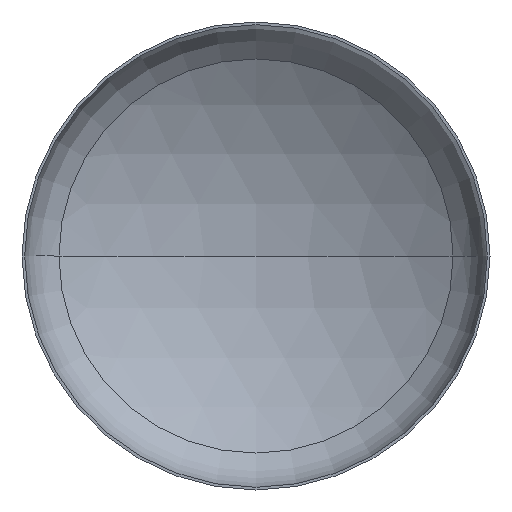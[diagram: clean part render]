
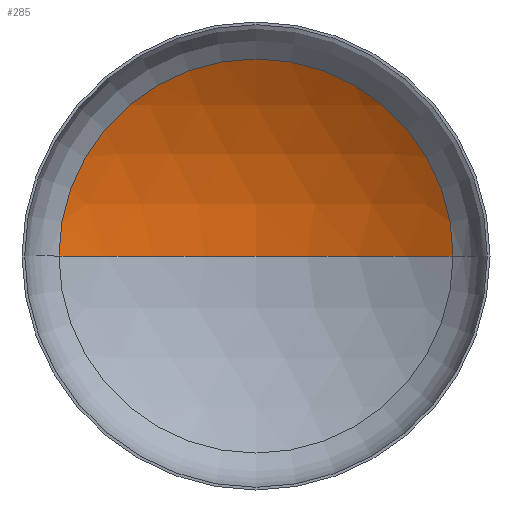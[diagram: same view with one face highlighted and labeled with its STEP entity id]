
A CAD part, front view. The second image highlights one B-rep face of the part: STEP entity #285.
In plain terms, the highlighted spherical face has radius 3600 mm.
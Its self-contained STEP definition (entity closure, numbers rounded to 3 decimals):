
#16 = AXIS2_PLACEMENT_3D ( 'NONE', #229, #83, #209 ) ;
#34 = VERTEX_POINT ( 'NONE', #203 ) ;
#39 = VERTEX_POINT ( 'NONE', #265 ) ;
#48 = AXIS2_PLACEMENT_3D ( 'NONE', #246, #402, #267 ) ;
#55 = AXIS2_PLACEMENT_3D ( 'NONE', #327, #199, #356 ) ;
#57 = CARTESIAN_POINT ( 'NONE',  ( 0., 675.943, 0. ) ) ;
#58 = AXIS2_PLACEMENT_3D ( 'NONE', #57, #289, #139 ) ;
#66 = ORIENTED_EDGE ( 'NONE', *, *, #123, .T. ) ;
#68 = VERTEX_POINT ( 'NONE', #152 ) ;
#83 = DIRECTION ( 'NONE',  ( 0., 0., -1. ) ) ;
#118 = FACE_OUTER_BOUND ( 'NONE', #150, .T. ) ;
#123 = EDGE_CURVE ( 'NONE', #34, #39, #408, .T. ) ;
#124 = EDGE_CURVE ( 'NONE', #68, #34, #288, .T. ) ;
#125 = EDGE_CURVE ( 'NONE', #68, #39, #232, .T. ) ;
#130 = ORIENTED_EDGE ( 'NONE', *, *, #124, .T. ) ;
#139 = DIRECTION ( 'NONE',  ( 1., 0., 0. ) ) ;
#145 = ORIENTED_EDGE ( 'NONE', *, *, #125, .F. ) ;
#150 = EDGE_LOOP ( 'NONE', ( #145, #130, #66 ) ) ;
#152 = CARTESIAN_POINT ( 'NONE',  ( 0., 1214.943, 0. ) ) ;
#199 = DIRECTION ( 'NONE',  ( 0., 0., -1. ) ) ;
#203 = CARTESIAN_POINT ( 'NONE',  ( 1894.802, 675.943, 0. ) ) ;
#209 = DIRECTION ( 'NONE',  ( -1., 0., 0. ) ) ;
#229 = CARTESIAN_POINT ( 'NONE',  ( 0., -2385.057, 0. ) ) ;
#232 = CIRCLE ( 'NONE', #48, 3600. ) ;
#246 = CARTESIAN_POINT ( 'NONE',  ( 0., -2385.057, 0. ) ) ;
#265 = CARTESIAN_POINT ( 'NONE',  ( -1894.802, 675.943, 0. ) ) ;
#267 = DIRECTION ( 'NONE',  ( 1., 0., 0. ) ) ;
#285 = ADVANCED_FACE ( 'NONE', ( #118 ), #323, .F. ) ;
#288 = CIRCLE ( 'NONE', #55, 3600. ) ;
#289 = DIRECTION ( 'NONE',  ( 0., -1., 0. ) ) ;
#323 = SPHERICAL_SURFACE ( 'NONE', #16, 3600. ) ;
#327 = CARTESIAN_POINT ( 'NONE',  ( 0., -2385.057, 0. ) ) ;
#356 = DIRECTION ( 'NONE',  ( -1., 0., 0. ) ) ;
#402 = DIRECTION ( 'NONE',  ( 0., 0., 1. ) ) ;
#408 = CIRCLE ( 'NONE', #58, 1894.802 ) ;
